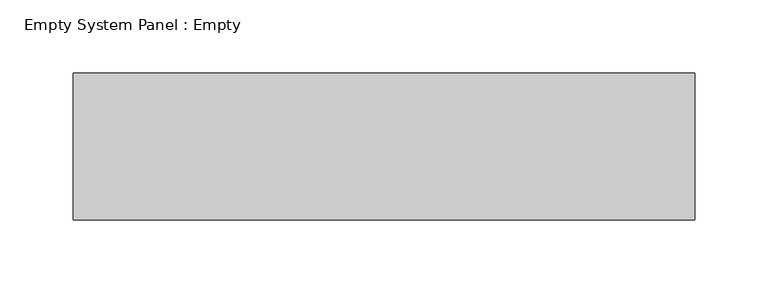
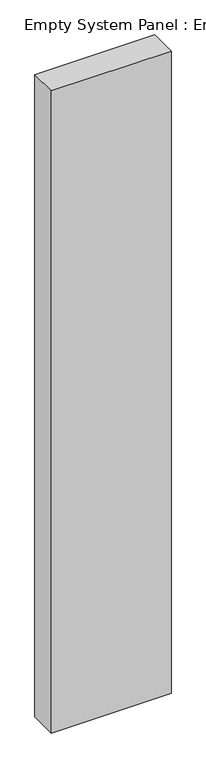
"""IFC4 building model written with IfcOpenShell, lengths in millimetres: plate geometry, Empty System Panel : Empty."""

from ifc_helpers import new_model, si_unit, origin, origin_with_axes, place, context, project, spatial, polyline, outline, extrude, source, transform, mapped, element, save


def empty_system_panel_empty_3b248391(model_context):
    return source(origin(), model_context, "Body", "SweptSolid", [
        extrude(outline(polyline([(211.7500001, 50.0), (-211.7500001, 50.0), (-211.7500001, 150.0), (211.7500001, 150.0), (211.7500001, 50.0)])), origin_with_axes(), (0.0, 0.0, 1.0), 2400.0),
    ])


if __name__ == "__main__":
    model = new_model("IFC4")
    model_context = context("Model", 3, world=origin())
    ifc_project = project(units=[si_unit("LENGTHUNIT", "METRE", prefix="MILLI")], contexts=[model_context])
    site = spatial("IfcSite", under=ifc_project)
    building = spatial("IfcBuilding", under=site)
    placement = place(None, origin())
    empty_system_panel_empty_shape = empty_system_panel_empty_3b248391(model_context)
    element("IfcPlate", 1, ObjectType="Empty System Panel : Empty", at=placement, inside=building, context=model_context, shape_type="MappedRepresentation", body=[
        mapped(empty_system_panel_empty_shape, transform((0.0, 0.0, 0.0), x_axis=(1.0, 0.0, 0.0), y_axis=(0.0, 1.0, 0.0), z_axis=(0.0, 0.0, 1.0))),
    ])
    save(model, "model.ifc")
